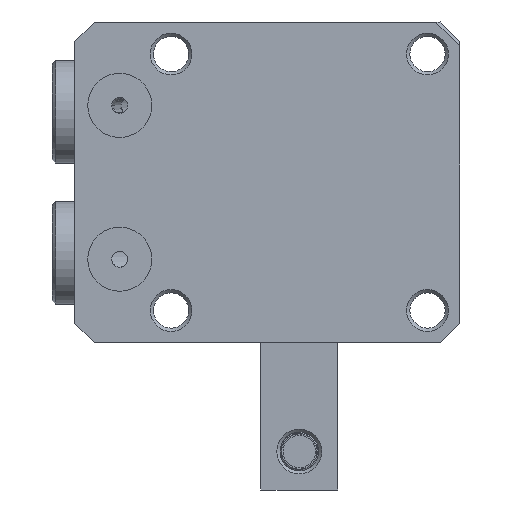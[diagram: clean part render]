
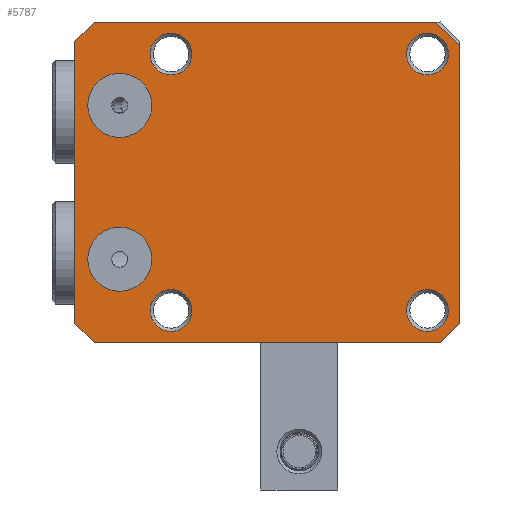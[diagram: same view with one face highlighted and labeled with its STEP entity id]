
A CAD part, front view. The second image highlights one B-rep face of the part: STEP entity #5787.
In plain terms, the highlighted planar face has unit normal (0, -1, 0).
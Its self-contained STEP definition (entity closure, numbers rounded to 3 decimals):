
#306=FACE_BOUND('',#873,.T.);
#307=FACE_BOUND('',#874,.T.);
#308=FACE_BOUND('',#875,.T.);
#309=FACE_BOUND('',#876,.T.);
#310=FACE_BOUND('',#877,.T.);
#311=FACE_BOUND('',#878,.T.);
#364=PLANE('',#6388);
#517=FACE_OUTER_BOUND('',#872,.T.);
#872=EDGE_LOOP('',(#4138,#4139,#4140,#4141,#4142,#4143,#4144,#4145));
#873=EDGE_LOOP('',(#4146));
#874=EDGE_LOOP('',(#4147));
#875=EDGE_LOOP('',(#4148));
#876=EDGE_LOOP('',(#4149));
#877=EDGE_LOOP('',(#4150));
#878=EDGE_LOOP('',(#4151));
#1260=LINE('',#9387,#1692);
#1294=LINE('',#9455,#1726);
#1295=LINE('',#9459,#1727);
#1296=LINE('',#9461,#1728);
#1297=LINE('',#9463,#1729);
#1298=LINE('',#9465,#1730);
#1299=LINE('',#9466,#1731);
#1300=LINE('',#9467,#1732);
#1692=VECTOR('',#7262,1000.);
#1726=VECTOR('',#7320,1000.);
#1727=VECTOR('',#7323,1000.);
#1728=VECTOR('',#7324,1000.);
#1729=VECTOR('',#7325,1000.);
#1730=VECTOR('',#7326,1000.);
#1731=VECTOR('',#7327,1000.);
#1732=VECTOR('',#7328,1000.);
#2101=CIRCLE('',#6317,5.);
#2103=CIRCLE('',#6320,5.);
#2106=CIRCLE('',#6324,3.25);
#2109=CIRCLE('',#6328,3.25);
#2112=CIRCLE('',#6332,3.25);
#2115=CIRCLE('',#6336,3.25);
#2496=VERTEX_POINT('',#9093);
#2498=VERTEX_POINT('',#9099);
#2501=VERTEX_POINT('',#9107);
#2504=VERTEX_POINT('',#9115);
#2507=VERTEX_POINT('',#9123);
#2510=VERTEX_POINT('',#9131);
#2552=VERTEX_POINT('',#9384);
#2553=VERTEX_POINT('',#9386);
#2575=VERTEX_POINT('',#9453);
#2576=VERTEX_POINT('',#9457);
#2577=VERTEX_POINT('',#9458);
#2578=VERTEX_POINT('',#9460);
#2579=VERTEX_POINT('',#9462);
#2580=VERTEX_POINT('',#9464);
#3066=EDGE_CURVE('',#2496,#2496,#2101,.T.);
#3069=EDGE_CURVE('',#2498,#2498,#2103,.T.);
#3073=EDGE_CURVE('',#2501,#2501,#2106,.T.);
#3077=EDGE_CURVE('',#2504,#2504,#2109,.T.);
#3081=EDGE_CURVE('',#2507,#2507,#2112,.T.);
#3085=EDGE_CURVE('',#2510,#2510,#2115,.T.);
#3143=EDGE_CURVE('',#2553,#2552,#1260,.T.);
#3178=EDGE_CURVE('',#2552,#2575,#1294,.T.);
#3179=EDGE_CURVE('',#2576,#2577,#1295,.T.);
#3180=EDGE_CURVE('',#2578,#2576,#1296,.T.);
#3181=EDGE_CURVE('',#2579,#2578,#1297,.T.);
#3182=EDGE_CURVE('',#2580,#2579,#1298,.T.);
#3183=EDGE_CURVE('',#2553,#2580,#1299,.T.);
#3184=EDGE_CURVE('',#2577,#2575,#1300,.T.);
#4138=ORIENTED_EDGE('',*,*,#3179,.F.);
#4139=ORIENTED_EDGE('',*,*,#3180,.F.);
#4140=ORIENTED_EDGE('',*,*,#3181,.F.);
#4141=ORIENTED_EDGE('',*,*,#3182,.F.);
#4142=ORIENTED_EDGE('',*,*,#3183,.F.);
#4143=ORIENTED_EDGE('',*,*,#3143,.T.);
#4144=ORIENTED_EDGE('',*,*,#3178,.T.);
#4145=ORIENTED_EDGE('',*,*,#3184,.F.);
#4146=ORIENTED_EDGE('',*,*,#3066,.F.);
#4147=ORIENTED_EDGE('',*,*,#3069,.F.);
#4148=ORIENTED_EDGE('',*,*,#3073,.F.);
#4149=ORIENTED_EDGE('',*,*,#3077,.F.);
#4150=ORIENTED_EDGE('',*,*,#3081,.F.);
#4151=ORIENTED_EDGE('',*,*,#3085,.F.);
#5787=ADVANCED_FACE('',(#517,#306,#307,#308,#309,#310,#311),#364,.F.);
#6317=AXIS2_PLACEMENT_3D('',#9095,#7112,#7113);
#6320=AXIS2_PLACEMENT_3D('',#9101,#7119,#7120);
#6324=AXIS2_PLACEMENT_3D('',#9109,#7128,#7129);
#6328=AXIS2_PLACEMENT_3D('',#9117,#7137,#7138);
#6332=AXIS2_PLACEMENT_3D('',#9125,#7146,#7147);
#6336=AXIS2_PLACEMENT_3D('',#9133,#7155,#7156);
#6388=AXIS2_PLACEMENT_3D('',#9456,#7321,#7322);
#7112=DIRECTION('center_axis',(0.,-1.,0.));
#7113=DIRECTION('ref_axis',(0.,0.,-1.));
#7119=DIRECTION('center_axis',(0.,-1.,0.));
#7120=DIRECTION('ref_axis',(0.,0.,-1.));
#7128=DIRECTION('center_axis',(0.,-1.,0.));
#7129=DIRECTION('ref_axis',(1.,0.,0.));
#7137=DIRECTION('center_axis',(0.,-1.,0.));
#7138=DIRECTION('ref_axis',(0.,0.,-1.));
#7146=DIRECTION('center_axis',(0.,-1.,0.));
#7147=DIRECTION('ref_axis',(0.,0.,
-1.));
#7155=DIRECTION('center_axis',(0.,-1.,0.));
#7156=DIRECTION('ref_axis',(1.,0.,0.));
#7262=DIRECTION('',(1.,0.,0.));
#7320=DIRECTION('',(0.707,0.,0.707));
#7321=DIRECTION('center_axis',(0.,1.,0.));
#7322=DIRECTION('ref_axis',(0.,0.,1.));
#7323=DIRECTION('',(0.707,0.,-0.707));
#7324=DIRECTION('',(1.,0.,0.));
#7325=DIRECTION('',(0.707,0.,0.707));
#7326=DIRECTION('',(0.,0.,1.));
#7327=DIRECTION('',(-0.707,0.,0.707));
#7328=DIRECTION('',(0.,0.,-1.));
#9093=CARTESIAN_POINT('',(403.833,54.859,-7.));
#9095=CARTESIAN_POINT('Origin',(403.833,54.859,-12.));
#9099=CARTESIAN_POINT('',(403.833,54.859,17.));
#9101=CARTESIAN_POINT('Origin',(403.833,54.859,12.));
#9107=CARTESIAN_POINT('',(408.583,54.859,-20.));
#9109=CARTESIAN_POINT('Origin',(411.833,54.859,-20.));
#9115=CARTESIAN_POINT('',(451.833,54.859,-16.75));
#9117=CARTESIAN_POINT('Origin',(451.833,54.859,-20.));
#9123=CARTESIAN_POINT('',(451.833,54.859,23.25));
#9125=CARTESIAN_POINT('Origin',(451.833,54.859,20.));
#9131=CARTESIAN_POINT('',(408.583,54.859,20.));
#9133=CARTESIAN_POINT('Origin',(411.833,54.859,20.));
#9384=CARTESIAN_POINT('',(453.833,54.859,-25.));
#9386=CARTESIAN_POINT('',(399.833,54.859,-25.));
#9387=CARTESIAN_POINT('',(399.833,54.859,-25.));
#9453=CARTESIAN_POINT('',(456.833,54.859,-22.));
#9455=CARTESIAN_POINT('',(453.833,54.859,-25.));
#9456=CARTESIAN_POINT('Origin',(456.833,54.859,-25.));
#9457=CARTESIAN_POINT('',(453.126,54.859,25.));
#9458=CARTESIAN_POINT('',(456.833,54.859,21.293));
#9459=CARTESIAN_POINT('',(453.126,54.859,25.));
#9460=CARTESIAN_POINT('',(399.833,54.859,25.));
#9461=CARTESIAN_POINT('',(456.833,54.859,25.));
#9462=CARTESIAN_POINT('',(396.833,54.859,22.));
#9463=CARTESIAN_POINT('',(396.833,54.859,22.));
#9464=CARTESIAN_POINT('',(396.833,54.859,-22.));
#9465=CARTESIAN_POINT('',(396.833,54.859,-25.));
#9466=CARTESIAN_POINT('',(399.833,54.859,-25.));
#9467=CARTESIAN_POINT('',(456.833,54.859,-25.));
